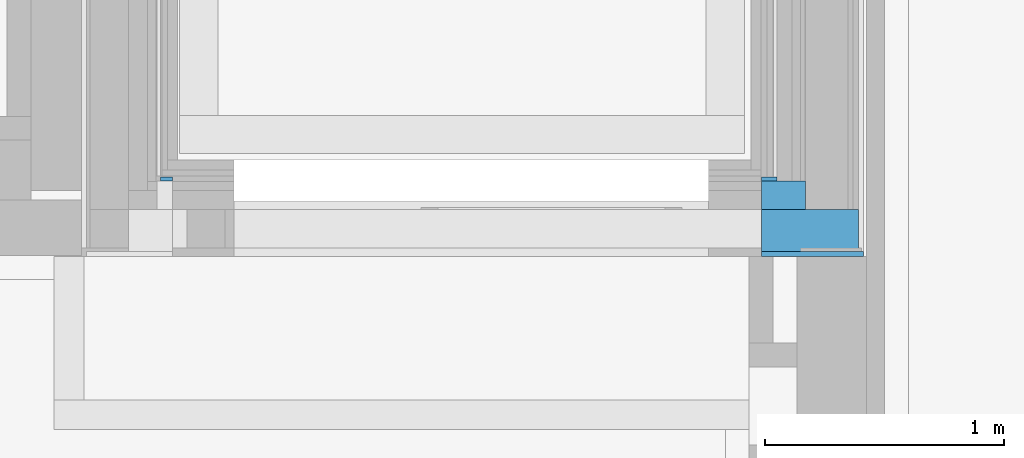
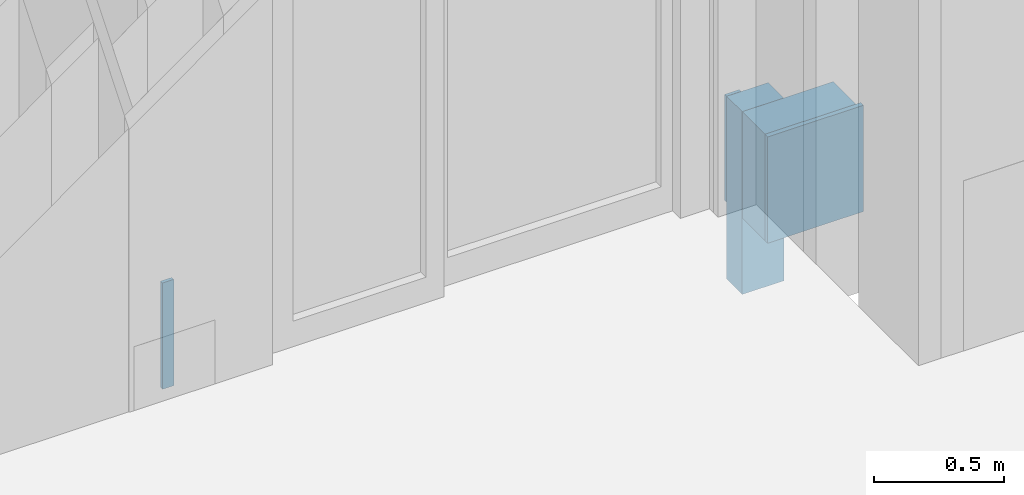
# One storey, part 63 of 207: 5 walls.
"""IFC4 building model written with IfcOpenShell, lengths in metres."""

from ifc_helpers import new_model, entity, si_unit, converted_unit, derived_unit, frame, frame_2d, origin, origin_with_axes, place, context, subcontext, project, spatial, rectangle, extrude, material, element, save


model = new_model("IFC4")

# Units and contexts
model_context = context("Model", 3, precision=1e-05, world=origin())
body_context = subcontext(model_context, "Body", "Model", "MODEL_VIEW")
ifc_project = project(units=[si_unit("LENGTHUNIT", "METRE"), si_unit("AREAUNIT", "SQUARE_METRE"), si_unit("VOLUMEUNIT", "CUBIC_METRE"), si_unit("MASSUNIT", "GRAM", prefix="KILO"), converted_unit("PLANEANGLEUNIT", "DEGREE", entity("IfcPlaneAngleMeasure", 0.0174532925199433), si_unit("PLANEANGLEUNIT", "RADIAN"), dimensions=[0, 0, 0, 0, 0, 0, 0]), derived_unit("THERMALTRANSMITTANCEUNIT", [(si_unit("POWERUNIT", "WATT"), 1), (si_unit("THERMODYNAMICTEMPERATUREUNIT", "KELVIN"), -1), (si_unit("LENGTHUNIT", "METRE"), -2)]), derived_unit("VOLUMETRICFLOWRATEUNIT", [(si_unit("LENGTHUNIT", "METRE"), 3), (converted_unit("TIMEUNIT", "hour", entity("IfcTimeMeasure", 3600.0), si_unit("TIMEUNIT", "SECOND"), dimensions=[0, 0, 1, 0, 0, 0, 0]), -1), (si_unit("LENGTHUNIT", "METRE"), -1)])], contexts=[model_context])

# Site, building, storey
site_placement = place(None, origin())
site = spatial("IfcSite", under=ifc_project, at=site_placement, Name="Psychiatrie Neubau Wunstorf", CompositionType="ELEMENT")
building_placement = place(site_placement, origin())
building = spatial("IfcBuilding", under=site, at=building_placement, Name="Neubau H2 Stationsgebäude", CompositionType="ELEMENT")
storey_placement = place(building_placement, frame((0.0, 0.0, -0.2)))
storey = spatial("IfcBuildingStorey", under=building, at=storey_placement, Name="H2 Ebene 0", CompositionType="ELEMENT", Elevation=-0.2)

# Walls
ifc_material_1 = material(Name="WA-LB")
wall_1_placement = place(storey_placement, frame((37.73, 24.1140036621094, 0.0)))
element("IfcWall", 1, at=wall_1_placement, inside=storey, material=ifc_material_1, context=body_context, shape_type="SweptSolid", body=[
    extrude(rectangle(XDim=0.426, YDim=0.021, at=frame_2d((0.213, 0.0105), x_axis=(1.0, 0.0))), origin_with_axes(), (0.0, 0.0, 1.0), 0.5),
])
ifc_material_2 = material(Name="WA-STB")
wall_2_placement = place(storey_placement, frame((37.73, 24.1350036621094, 0.0)))
element("IfcWall", 2, at=wall_2_placement, inside=storey, material=ifc_material_2, context=body_context, shape_type="SweptSolid", body=[
    extrude(rectangle(XDim=0.405, YDim=0.175, at=frame_2d((0.2025, 0.0875), x_axis=(1.0, 0.0))), origin_with_axes(), (0.0, 0.0, 1.0), 0.5),
])
ifc_material_3 = material(Name="WA-DE")
wall_3_placement = place(storey_placement, frame((37.73, 24.3100036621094, -0.36)))
element("IfcWall", 3, at=wall_3_placement, inside=storey, material=ifc_material_3, context=body_context, shape_type="SweptSolid", body=[
    extrude(rectangle(XDim=0.185, YDim=0.12, at=frame_2d((0.0925, 0.06), x_axis=(1.0, 0.0))), origin_with_axes(), (0.0, 0.0, 1.0), 0.86),
])
ifc_material_4 = material(Name="WA-LB")
wall_4_placement = place(storey_placement, frame((37.73, 24.4300036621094, 0.0)))
element("IfcWall", 4, at=wall_4_placement, inside=storey, material=ifc_material_4, context=body_context, shape_type="SweptSolid", body=[
    extrude(rectangle(XDim=0.065, YDim=0.015, at=frame_2d((0.0325, 0.0075), x_axis=(1.0, 0.0))), origin_with_axes(), (0.0, 0.0, 1.0), 0.5),
])
ifc_material_5 = material(Name="WA-LB")
wall_5_placement = place(storey_placement, frame((35.22, 24.4300036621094, 0.0)))
element("IfcWall", 5, at=wall_5_placement, inside=storey, material=ifc_material_5, context=body_context, shape_type="SweptSolid", body=[
    extrude(rectangle(XDim=0.05, YDim=0.015, at=frame_2d((0.025, 0.0075), x_axis=(1.0, 0.0))), origin_with_axes(), (0.0, 0.0, 1.0), 0.5),
])

save(model, "model.ifc")
